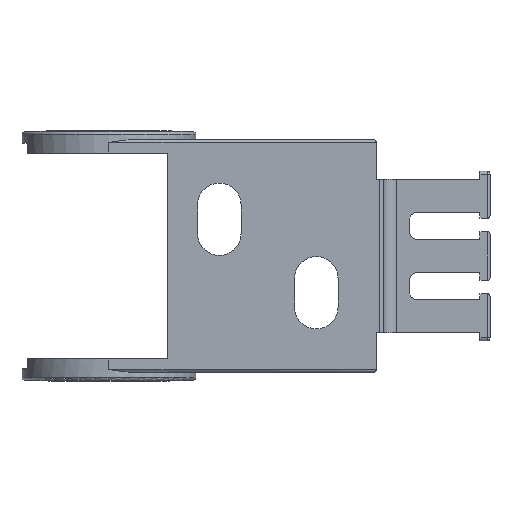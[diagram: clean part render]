
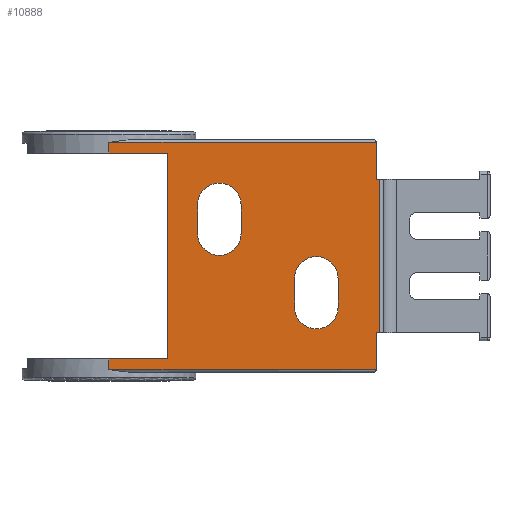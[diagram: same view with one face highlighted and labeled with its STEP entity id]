
A CAD part, front view. The second image highlights one B-rep face of the part: STEP entity #10888.
In plain terms, the highlighted planar face has unit normal (0, -1, 0).
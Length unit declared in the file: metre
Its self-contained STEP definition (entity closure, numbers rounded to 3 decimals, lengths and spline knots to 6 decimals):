
#226=CARTESIAN_POINT('',(-0.03492,-0.01727,0.052993));
#227=VERTEX_POINT('',#226);
#243=CARTESIAN_POINT('',(0.00508,-0.01727,0.052993));
#244=VERTEX_POINT('',#243);
#247=CARTESIAN_POINT('',(0.00508,-0.01727,0.052993));
#248=DIRECTION('',(-1.,0.,0.));
#249=VECTOR('',#248,1.);
#250=LINE('',#247,#249);
#251=EDGE_CURVE('',#244,#227,#250,.T.);
#2284=CARTESIAN_POINT('',(0.005612,-0.01727,0.058493));
#2285=VERTEX_POINT('',#2284);
#2294=CARTESIAN_POINT('',(0.005612,-0.01727,0.081493));
#2295=VERTEX_POINT('',#2294);
#2298=CARTESIAN_POINT('',(0.005612,-0.01727,0.081493));
#2299=DIRECTION('',(0.,0.,-1.));
#2300=VECTOR('',#2299,1.);
#2301=LINE('',#2298,#2300);
#2302=EDGE_CURVE('',#2295,#2285,#2301,.T.);
#2854=CARTESIAN_POINT('',(0.00508,-0.01727,0.086993));
#2855=VERTEX_POINT('',#2854);
#2858=CARTESIAN_POINT('',(0.00508,-0.01727,0.086393));
#2859=DIRECTION('',(0.,0.,-1.));
#2860=VECTOR('',#2859,1.);
#2861=LINE('',#2858,#2860);
#2862=CARTESIAN_POINT('',(0.00508,-0.01727,0.081493));
#2863=VERTEX_POINT('',#2862);
#2864=EDGE_CURVE('',#2855,#2863,#2861,.T.);
#2929=CARTESIAN_POINT('',(-0.03492,-0.01727,0.086993));
#2930=VERTEX_POINT('',#2929);
#2933=CARTESIAN_POINT('',(-0.03492,-0.01727,0.086993));
#2934=DIRECTION('',(1.,0.,0.));
#2935=VECTOR('',#2934,1.);
#2936=LINE('',#2933,#2935);
#2937=EDGE_CURVE('',#2930,#2855,#2936,.T.);
#9875=CARTESIAN_POINT('',(-0.03492,-0.01727,0.085393));
#9876=VERTEX_POINT('',#9875);
#9879=CARTESIAN_POINT('',(-0.03492,-0.01727,0.086393));
#9880=DIRECTION('',(0.,0.,-1.));
#9881=VECTOR('',#9880,1.);
#9882=LINE('',#9879,#9881);
#9883=EDGE_CURVE('',#2930,#9876,#9882,.T.);
#9914=CARTESIAN_POINT('',(-0.02612,-0.01727,0.085393));
#9915=VERTEX_POINT('',#9914);
#9918=CARTESIAN_POINT('',(-0.01892,-0.01727,0.085393));
#9919=DIRECTION('',(1.,0.,0.));
#9920=VECTOR('',#9919,1.);
#9921=LINE('',#9918,#9920);
#9922=EDGE_CURVE('',#9876,#9915,#9921,.T.);
#10113=CARTESIAN_POINT('',(0.00508,-0.01727,0.058493));
#10114=VERTEX_POINT('',#10113);
#10115=EDGE_CURVE('',#10114,#244,#2861,.T.);
#10194=CARTESIAN_POINT('',(-0.02612,-0.01727,0.054593));
#10195=VERTEX_POINT('',#10194);
#10198=CARTESIAN_POINT('',(-0.02612,-0.01727,0.082493));
#10199=DIRECTION('',(0.,0.,-1.));
#10200=VECTOR('',#10199,1.);
#10201=LINE('',#10198,#10200);
#10202=EDGE_CURVE('',#9915,#10195,#10201,.T.);
#10252=CARTESIAN_POINT('',(-0.021653,-0.01727,0.077643));
#10253=VERTEX_POINT('',#10252);
#10269=CARTESIAN_POINT('',(-0.015153,-0.01727,0.077643));
#10270=VERTEX_POINT('',#10269);
#10273=CARTESIAN_POINT('',(-0.018403,-0.01727,0.077643));
#10274=DIRECTION('',(0.,-1.,0.));
#10275=DIRECTION('',(-1.,0.,0.));
#10276=AXIS2_PLACEMENT_3D('',#10273,#10274,#10275);
#10277=CIRCLE('',#10276,0.00325);
#10278=EDGE_CURVE('',#10270,#10253,#10277,.T.);
#10309=CARTESIAN_POINT('',(-0.015153,-0.01727,0.073343));
#10310=VERTEX_POINT('',#10309);
#10313=CARTESIAN_POINT('',(-0.015153,-0.01727,0.077643));
#10314=DIRECTION('',(0.,0.,1.));
#10315=VECTOR('',#10314,1.);
#10316=LINE('',#10313,#10315);
#10317=EDGE_CURVE('',#10310,#10270,#10316,.T.);
#10349=CARTESIAN_POINT('',(-0.021653,-0.01727,0.073343));
#10350=VERTEX_POINT('',#10349);
#10353=CARTESIAN_POINT('',(-0.018403,-0.01727,0.073343));
#10354=DIRECTION('',(0.,-1.,0.));
#10355=DIRECTION('',(-1.,0.,0.));
#10356=AXIS2_PLACEMENT_3D('',#10353,#10354,#10355);
#10357=CIRCLE('',#10356,0.00325);
#10358=EDGE_CURVE('',#10350,#10310,#10357,.T.);
#10384=CARTESIAN_POINT('',(-0.021653,-0.01727,0.077643));
#10385=DIRECTION('',(0.,0.,-1.));
#10386=VECTOR('',#10385,1.);
#10387=LINE('',#10384,#10386);
#10388=EDGE_CURVE('',#10253,#10350,#10387,.T.);
#10566=CARTESIAN_POINT('',(-0.01892,-0.01727,0.081493));
#10567=DIRECTION('',(-1.,0.,0.));
#10568=VECTOR('',#10567,1.);
#10569=LINE('',#10566,#10568);
#10570=EDGE_CURVE('',#2295,#2863,#10569,.T.);
#10667=CARTESIAN_POINT('',(-0.01892,-0.01727,0.058493));
#10668=DIRECTION('',(-1.,0.,0.));
#10669=VECTOR('',#10668,1.);
#10670=LINE('',#10667,#10669);
#10671=EDGE_CURVE('',#2285,#10114,#10670,.T.);
#10724=CARTESIAN_POINT('',(-0.000653,-0.01727,0.062343));
#10725=VERTEX_POINT('',#10724);
#10733=CARTESIAN_POINT('',(-0.007153,-0.01727,0.062343));
#10734=VERTEX_POINT('',#10733);
#10737=CARTESIAN_POINT('',(-0.003903,-0.01727,0.062343));
#10738=DIRECTION('',(0.,-1.,0.));
#10739=DIRECTION('',(-1.,0.,0.));
#10740=AXIS2_PLACEMENT_3D('',#10737,#10738,#10739);
#10741=CIRCLE('',#10740,0.00325);
#10742=EDGE_CURVE('',#10734,#10725,#10741,.T.);
#10766=CARTESIAN_POINT('',(-0.007153,-0.01727,0.066643));
#10767=VERTEX_POINT('',#10766);
#10770=CARTESIAN_POINT('',(-0.007153,-0.01727,0.062343));
#10771=DIRECTION('',(0.,0.,-1.));
#10772=VECTOR('',#10771,1.);
#10773=LINE('',#10770,#10772);
#10774=EDGE_CURVE('',#10767,#10734,#10773,.T.);
#10798=CARTESIAN_POINT('',(-0.000653,-0.01727,0.066643));
#10799=VERTEX_POINT('',#10798);
#10802=CARTESIAN_POINT('',(-0.003903,-0.01727,0.066643));
#10803=DIRECTION('',(0.,-1.,0.));
#10804=DIRECTION('',(-1.,0.,0.));
#10805=AXIS2_PLACEMENT_3D('',#10802,#10803,#10804);
#10806=CIRCLE('',#10805,0.00325);
#10807=EDGE_CURVE('',#10799,#10767,#10806,.T.);
#10828=CARTESIAN_POINT('',(-0.000653,-0.01727,0.062343));
#10829=DIRECTION('',(0.,0.,1.));
#10830=VECTOR('',#10829,1.);
#10831=LINE('',#10828,#10830);
#10832=EDGE_CURVE('',#10725,#10799,#10831,.T.);
#10845=CARTESIAN_POINT('',(-0.01892,-0.01727,0.086393));
#10846=DIRECTION('',(0.,1.,0.));
#10847=DIRECTION('',(-1.,0.,0.));
#10848=AXIS2_PLACEMENT_3D('',#10845,#10846,#10847);
#10849=PLANE('',#10848);
#10850=ORIENTED_EDGE('',*,*,#10832,.F.);
#10851=ORIENTED_EDGE('',*,*,#10742,.F.);
#10852=ORIENTED_EDGE('',*,*,#10774,.F.);
#10853=ORIENTED_EDGE('',*,*,#10807,.F.);
#10854=EDGE_LOOP('',(#10850,#10851,#10852,#10853));
#10855=FACE_BOUND('',#10854,.T.);
#10856=ORIENTED_EDGE('',*,*,#10317,.F.);
#10857=ORIENTED_EDGE('',*,*,#10358,.F.);
#10858=ORIENTED_EDGE('',*,*,#10388,.F.);
#10859=ORIENTED_EDGE('',*,*,#10278,.F.);
#10860=EDGE_LOOP('',(#10856,#10857,#10858,#10859));
#10861=FACE_BOUND('',#10860,.T.);
#10862=CARTESIAN_POINT('',(-0.03492,-0.01727,0.053593));
#10863=DIRECTION('',(0.,0.,1.));
#10864=VECTOR('',#10863,1.);
#10865=LINE('',#10862,#10864);
#10866=CARTESIAN_POINT('',(-0.03492,-0.01727,0.054593));
#10867=VERTEX_POINT('',#10866);
#10868=EDGE_CURVE('',#227,#10867,#10865,.T.);
#10869=ORIENTED_EDGE('',*,*,#10868,.F.);
#10870=ORIENTED_EDGE('',*,*,#251,.F.);
#10871=ORIENTED_EDGE('',*,*,#10115,.F.);
#10872=ORIENTED_EDGE('',*,*,#10671,.F.);
#10873=ORIENTED_EDGE('',*,*,#2302,.F.);
#10874=ORIENTED_EDGE('',*,*,#10570,.T.);
#10875=ORIENTED_EDGE('',*,*,#2864,.F.);
#10876=ORIENTED_EDGE('',*,*,#2937,.F.);
#10877=ORIENTED_EDGE('',*,*,#9883,.T.);
#10878=ORIENTED_EDGE('',*,*,#9922,.T.);
#10879=ORIENTED_EDGE('',*,*,#10202,.T.);
#10880=CARTESIAN_POINT('',(-0.01892,-0.01727,0.054593));
#10881=DIRECTION('',(-1.,0.,0.));
#10882=VECTOR('',#10881,1.);
#10883=LINE('',#10880,#10882);
#10884=EDGE_CURVE('',#10195,#10867,#10883,.T.);
#10885=ORIENTED_EDGE('',*,*,#10884,.T.);
#10886=EDGE_LOOP('',(#10869,#10870,#10871,#10872,#10873,#10874,#10875,#10876,#10877,#10878,#10879,#10885));
#10887=FACE_BOUND('',#10886,.T.);
#10888=ADVANCED_FACE('',(#10855,#10861,#10887),#10849,.F.);
